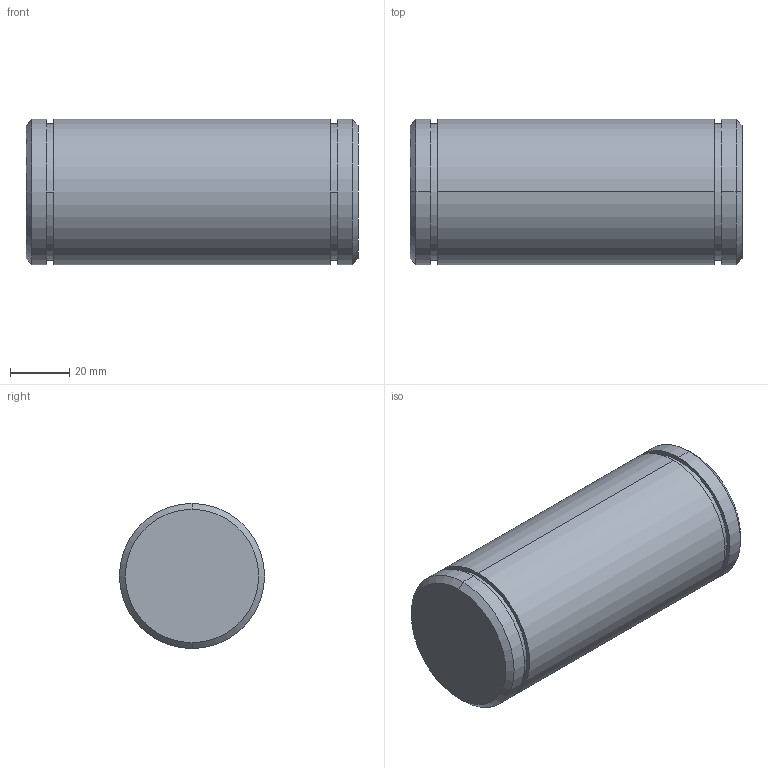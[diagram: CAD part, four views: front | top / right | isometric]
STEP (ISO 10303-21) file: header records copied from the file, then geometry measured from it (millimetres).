
FILE_DESCRIPTION (( 'STEP AP203' ), '1' );
FILE_NAME ('Bolzen Sicherungsring B M48.STEP', '2018-02-22T05:40:23', ( 'install' ), ( 'Hewlett-Packard Company' ), 'SwSTEP 2.0', 'SolidWorks 2017', '' );
FILE_SCHEMA (( 'CONFIG_CONTROL_DESIGN' ));
Length unit declared in the file: millimetre
Products named in the file (1): Bolzen Sicherungsring B M48
Bounding box: 112 x 49 x 49 mm (x, y, z)
Volume: 209599.1 mm3; surface area: 21436.6 mm2
Topology: 1 solids, 1 shells, 20 faces, 38 edges, 24 vertices
Faces by surface type: cylinder 10, plane 6, cone 4
Entity records: 591 total; most frequent: DIRECTION 104, CARTESIAN_POINT 83, ORIENTED_EDGE 76, AXIS2_PLACEMENT_3D 45, EDGE_CURVE 38, VERTEX_POINT 24, CIRCLE 24, EDGE_LOOP 24
